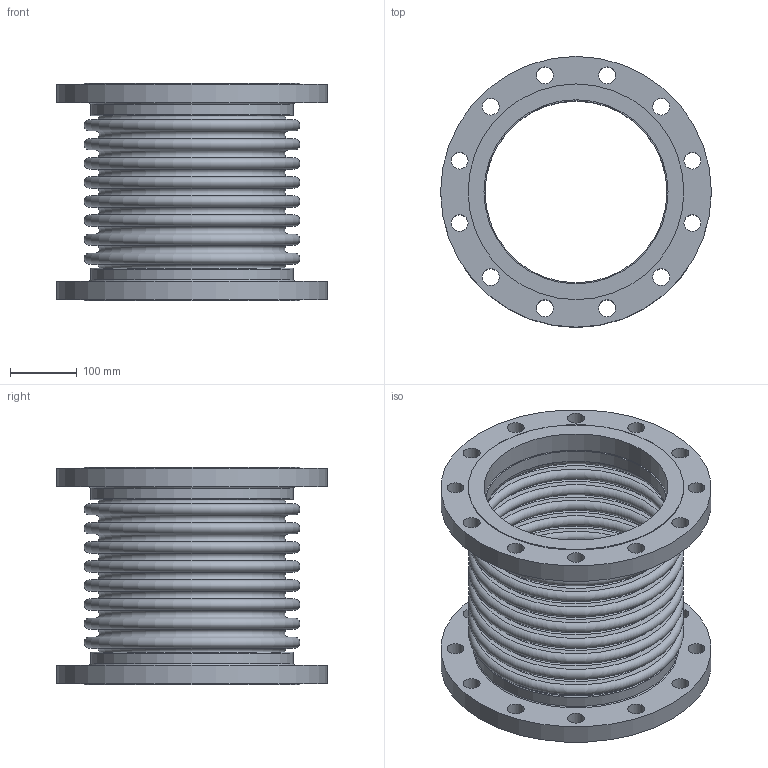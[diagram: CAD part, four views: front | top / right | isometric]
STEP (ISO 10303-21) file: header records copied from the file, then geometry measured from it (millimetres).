
FILE_DESCRIPTION(/* description */ ('EXPANSION JOINT,SINGLE, FLANGED ENDS,10 INCH NOMINAL','CAx-IF Rec.Pracs.---Representation and Presentation of Product Manufacturing Information (PMI)---4.0---2014-10-13'),/* implementation_level */ '2;1');
FILE_NAME(/* name */ 'US-10-8-300S-FLANGED ENDS.stp',/* time_stamp */ '2026-07-31T17:15:38-05:00',/* author */ ('Guadalupe'),/* organization */ (''),/* preprocessor_version */ 'ST-DEVELOPER v20.1',/* originating_system */ 'Autodesk Inventor 2026',/* authorisation */ '');
FILE_SCHEMA (('AP242_MANAGED_MODEL_BASED_3D_ENGINEERING_MIM_LF { 1 0 10303 442 2 1 4 }'));
Length unit declared in the file: inch
Products named in the file (3): 10-300S; 10-300S-02; 10-300S-01
Assembly tree (3 placements, depth 2):
  10-300S
    10-300S-02  x2
    10-300S-01
Bounding box: 406.4 x 406.4 x 327.15 mm (x, y, z)
Volume: 5409968.9 mm3; surface area: 1517095.6 mm2
Topology: 5 solids, 5 shells, 120 faces, 222 edges, 148 vertices
Faces by surface type: plane 46, torus 38, cylinder 36
Full cylindrical faces by diameter (mm): 25.4 x24, 273.05 x2, 276.352 x2, 277.927 x2, 304.8 x2, 323.85 x2, 406.4 x2
Entity records: 2714 total; most frequent: DIRECTION 550, CARTESIAN_POINT 401, ORIENTED_EDGE 336, AXIS2_PLACEMENT_3D 265, EDGE_CURVE 168, EDGE_LOOP 164, CIRCLE 148, VERTEX_POINT 112
